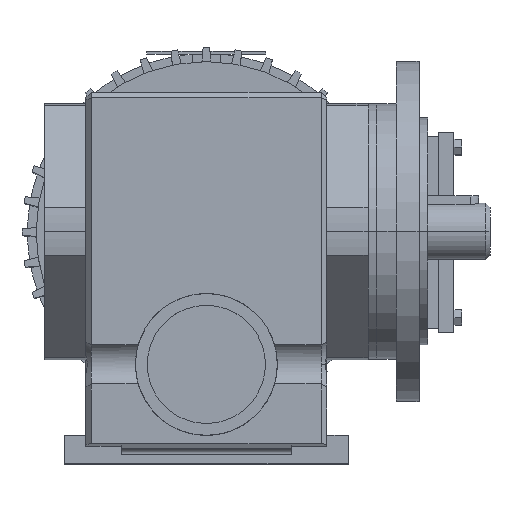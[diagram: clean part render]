
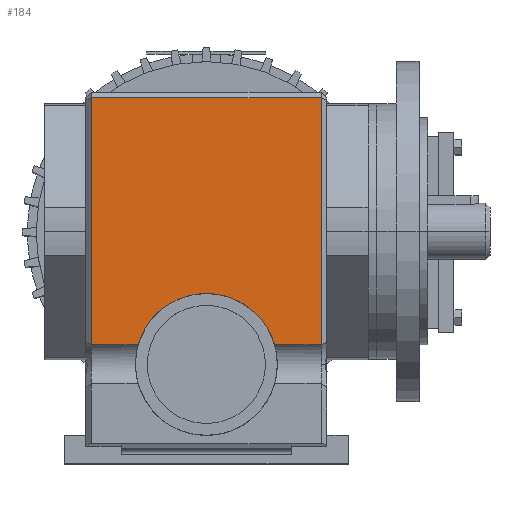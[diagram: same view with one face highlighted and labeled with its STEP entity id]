
A CAD part, top view. The second image highlights one B-rep face of the part: STEP entity #184.
In plain terms, the highlighted planar face has unit normal (0, 0, 1).
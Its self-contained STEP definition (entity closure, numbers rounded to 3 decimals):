
#45 = VERTEX_POINT('',#46);
#46 = CARTESIAN_POINT('',(40.5,-40.126,130.5));
#56 = PLANE('',#57);
#57 = AXIS2_PLACEMENT_3D('',#58,#59,#60);
#58 = CARTESIAN_POINT('',(40.5,47.,130.5));
#59 = DIRECTION('',(0.707,0.,0.707)
  );
#60 = DIRECTION('',(0.707,0.,-0.707));
#132 = VERTEX_POINT('',#133);
#133 = CARTESIAN_POINT('',(40.5,47.,130.5));
#159 = EDGE_CURVE('',#45,#132,#160,.T.);
#160 = SURFACE_CURVE('',#161,(#165,#172),.PCURVE_S1.);
#161 = LINE('',#162,#163);
#162 = CARTESIAN_POINT('',(40.5,47.,130.5));
#163 = VECTOR('',#164,1.);
#164 = DIRECTION('',(0.,1.,0.));
#165 = PCURVE('',#56,#166);
#166 = DEFINITIONAL_REPRESENTATION('',(#167),#171);
#167 = LINE('',#168,#169);
#168 = CARTESIAN_POINT('',(0.,0.));
#169 = VECTOR('',#170,1.);
#170 = DIRECTION('',(0.,1.));
#171 = ( GEOMETRIC_REPRESENTATION_CONTEXT(2) 
PARAMETRIC_REPRESENTATION_CONTEXT() REPRESENTATION_CONTEXT('2D SPACE',''
  ) );
#172 = PCURVE('',#173,#178);
#173 = PLANE('',#174);
#174 = AXIS2_PLACEMENT_3D('',#175,#176,#177);
#175 = CARTESIAN_POINT('',(50.,47.,130.5));
#176 = DIRECTION('',(0.,0.,-1.));
#177 = DIRECTION('',(0.,1.,0.));
#178 = DEFINITIONAL_REPRESENTATION('',(#179),#183);
#179 = LINE('',#180,#181);
#180 = CARTESIAN_POINT('',(0.,-9.5));
#181 = VECTOR('',#182,1.);
#182 = DIRECTION('',(1.,0.));
#183 = ( GEOMETRIC_REPRESENTATION_CONTEXT(2) 
PARAMETRIC_REPRESENTATION_CONTEXT() REPRESENTATION_CONTEXT('2D SPACE',''
  ) );
#184 = ADVANCED_FACE('',(#185),#173,.F.);
#185 = FACE_BOUND('',#186,.T.);
#186 = EDGE_LOOP('',(#187,#215,#243,#270,#302,#327));
#187 = ORIENTED_EDGE('',*,*,#188,.T.);
#188 = EDGE_CURVE('',#132,#189,#191,.T.);
#189 = VERTEX_POINT('',#190);
#190 = CARTESIAN_POINT('',(-40.5,47.,130.5));
#191 = SURFACE_CURVE('',#192,(#196,#203),.PCURVE_S1.);
#192 = LINE('',#193,#194);
#193 = CARTESIAN_POINT('',(50.,47.,130.5));
#194 = VECTOR('',#195,1.);
#195 = DIRECTION('',(-1.,0.,0.));
#196 = PCURVE('',#173,#197);
#197 = DEFINITIONAL_REPRESENTATION('',(#198),#202);
#198 = LINE('',#199,#200);
#199 = CARTESIAN_POINT('',(0.,0.));
#200 = VECTOR('',#201,1.);
#201 = DIRECTION('',(0.,-1.));
#202 = ( GEOMETRIC_REPRESENTATION_CONTEXT(2) 
PARAMETRIC_REPRESENTATION_CONTEXT() REPRESENTATION_CONTEXT('2D SPACE',''
  ) );
#203 = PCURVE('',#204,#209);
#204 = PLANE('',#205);
#205 = AXIS2_PLACEMENT_3D('',#206,#207,#208);
#206 = CARTESIAN_POINT('',(50.,49.,128.5));
#207 = DIRECTION('',(0.,-0.707,-0.707));
#208 = DIRECTION('',(0.,0.707,-0.707));
#209 = DEFINITIONAL_REPRESENTATION('',(#210),#214);
#210 = LINE('',#211,#212);
#211 = CARTESIAN_POINT('',(-2.828,0.));
#212 = VECTOR('',#213,1.);
#213 = DIRECTION('',(0.,-1.));
#214 = ( GEOMETRIC_REPRESENTATION_CONTEXT(2) 
PARAMETRIC_REPRESENTATION_CONTEXT() REPRESENTATION_CONTEXT('2D SPACE',''
  ) );
#215 = ORIENTED_EDGE('',*,*,#216,.T.);
#216 = EDGE_CURVE('',#189,#217,#219,.T.);
#217 = VERTEX_POINT('',#218);
#218 = CARTESIAN_POINT('',(-40.5,-40.126,130.5));
#219 = SURFACE_CURVE('',#220,(#224,#231),.PCURVE_S1.);
#220 = LINE('',#221,#222);
#221 = CARTESIAN_POINT('',(-40.5,-40.126,130.5));
#222 = VECTOR('',#223,1.);
#223 = DIRECTION('',(0.,-1.,0.));
#224 = PCURVE('',#173,#225);
#225 = DEFINITIONAL_REPRESENTATION('',(#226),#230);
#226 = LINE('',#227,#228);
#227 = CARTESIAN_POINT('',(-87.126,-90.5));
#228 = VECTOR('',#229,1.);
#229 = DIRECTION('',(-1.,0.));
#230 = ( GEOMETRIC_REPRESENTATION_CONTEXT(2) 
PARAMETRIC_REPRESENTATION_CONTEXT() REPRESENTATION_CONTEXT('2D SPACE',''
  ) );
#231 = PCURVE('',#232,#237);
#232 = PLANE('',#233);
#233 = AXIS2_PLACEMENT_3D('',#234,#235,#236);
#234 = CARTESIAN_POINT('',(-40.5,47.,130.5));
#235 = DIRECTION('',(-0.707,0.,0.707)
  );
#236 = DIRECTION('',(0.707,0.,0.707));
#237 = DEFINITIONAL_REPRESENTATION('',(#238),#242);
#238 = LINE('',#239,#240);
#239 = CARTESIAN_POINT('',(0.,-87.126));
#240 = VECTOR('',#241,1.);
#241 = DIRECTION('',(0.,-1.));
#242 = ( GEOMETRIC_REPRESENTATION_CONTEXT(2) 
PARAMETRIC_REPRESENTATION_CONTEXT() REPRESENTATION_CONTEXT('2D SPACE',''
  ) );
#243 = ORIENTED_EDGE('',*,*,#244,.F.);
#244 = EDGE_CURVE('',#245,#217,#247,.T.);
#245 = VERTEX_POINT('',#246);
#246 = CARTESIAN_POINT('',(-24.036,-40.126,130.5));
#247 = SURFACE_CURVE('',#248,(#252,#259),.PCURVE_S1.);
#248 = LINE('',#249,#250);
#249 = CARTESIAN_POINT('',(50.,-40.126,130.5));
#250 = VECTOR('',#251,1.);
#251 = DIRECTION('',(-1.,0.,0.));
#252 = PCURVE('',#173,#253);
#253 = DEFINITIONAL_REPRESENTATION('',(#254),#258);
#254 = LINE('',#255,#256);
#255 = CARTESIAN_POINT('',(-87.126,0.));
#256 = VECTOR('',#257,1.);
#257 = DIRECTION('',(0.,-1.));
#258 = ( GEOMETRIC_REPRESENTATION_CONTEXT(2) 
PARAMETRIC_REPRESENTATION_CONTEXT() REPRESENTATION_CONTEXT('2D SPACE',''
  ) );
#259 = PCURVE('',#260,#265);
#260 = CYLINDRICAL_SURFACE('',#261,8.5);
#261 = AXIS2_PLACEMENT_3D('',#262,#263,#264);
#262 = CARTESIAN_POINT('',(50.,-47.,135.5));
#263 = DIRECTION('',(-1.,0.,0.));
#264 = DIRECTION('',(0.,0.,1.));
#265 = DEFINITIONAL_REPRESENTATION('',(#266),#269);
#266 = B_SPLINE_CURVE_WITH_KNOTS('',1,(#267,#268),.UNSPECIFIED.,.F.,.F.,
  (2,2),(74.036,90.5),.PIECEWISE_BEZIER_KNOTS.);
#267 = CARTESIAN_POINT('',(2.2,74.036));
#268 = CARTESIAN_POINT('',(2.2,90.5));
#269 = ( GEOMETRIC_REPRESENTATION_CONTEXT(2) 
PARAMETRIC_REPRESENTATION_CONTEXT() REPRESENTATION_CONTEXT('2D SPACE',''
  ) );
#270 = ORIENTED_EDGE('',*,*,#271,.F.);
#271 = EDGE_CURVE('',#272,#245,#274,.T.);
#272 = VERTEX_POINT('',#273);
#273 = CARTESIAN_POINT('',(24.036,-40.126,130.5));
#274 = SURFACE_CURVE('',#275,(#280,#291),.PCURVE_S1.);
#275 = CIRCLE('',#276,25.);
#276 = AXIS2_PLACEMENT_3D('',#277,#278,#279);
#277 = CARTESIAN_POINT('',(0.,-47.,130.5));
#278 = DIRECTION('',(0.,0.,1.));
#279 = DIRECTION('',(0.,1.,0.));
#280 = PCURVE('',#173,#281);
#281 = DEFINITIONAL_REPRESENTATION('',(#282),#290);
#282 = ( BOUNDED_CURVE() B_SPLINE_CURVE(2,(#283,#284,#285,#286,#287,#288
,#289),.UNSPECIFIED.,.F.,.F.) B_SPLINE_CURVE_WITH_KNOTS((1,2,2,2,2,1),(
    -2.094,0.,2.094,4.189,6.283,
8.378),.UNSPECIFIED.) CURVE() GEOMETRIC_REPRESENTATION_ITEM() 
RATIONAL_B_SPLINE_CURVE((1.,0.5,1.,0.5,1.,0.5,1.)) REPRESENTATION_ITEM(
  '') );
#283 = CARTESIAN_POINT('',(-69.,-50.));
#284 = CARTESIAN_POINT('',(-69.,-93.301));
#285 = CARTESIAN_POINT('',(-106.5,-71.651));
#286 = CARTESIAN_POINT('',(-144.,-50.));
#287 = CARTESIAN_POINT('',(-106.5,-28.349));
#288 = CARTESIAN_POINT('',(-69.,-6.699));
#289 = CARTESIAN_POINT('',(-69.,-50.));
#290 = ( GEOMETRIC_REPRESENTATION_CONTEXT(2) 
PARAMETRIC_REPRESENTATION_CONTEXT() REPRESENTATION_CONTEXT('2D SPACE',''
  ) );
#291 = PCURVE('',#292,#297);
#292 = CYLINDRICAL_SURFACE('',#293,25.);
#293 = AXIS2_PLACEMENT_3D('',#294,#295,#296);
#294 = CARTESIAN_POINT('',(0.,-47.,135.5));
#295 = DIRECTION('',(0.,0.,-1.));
#296 = DIRECTION('',(-1.,0.,0.));
#297 = DEFINITIONAL_REPRESENTATION('',(#298),#301);
#298 = B_SPLINE_CURVE_WITH_KNOTS('',1,(#299,#300),.UNSPECIFIED.,.F.,.F.,
  (2,2),(4.991,7.575),.PIECEWISE_BEZIER_KNOTS.);
#299 = CARTESIAN_POINT('',(2.863,5.));
#300 = CARTESIAN_POINT('',(0.279,5.));
#301 = ( GEOMETRIC_REPRESENTATION_CONTEXT(2) 
PARAMETRIC_REPRESENTATION_CONTEXT() REPRESENTATION_CONTEXT('2D SPACE',''
  ) );
#302 = ORIENTED_EDGE('',*,*,#303,.F.);
#303 = EDGE_CURVE('',#45,#272,#304,.T.);
#304 = SURFACE_CURVE('',#305,(#309,#316),.PCURVE_S1.);
#305 = LINE('',#306,#307);
#306 = CARTESIAN_POINT('',(50.,-40.126,130.5));
#307 = VECTOR('',#308,1.);
#308 = DIRECTION('',(-1.,0.,0.));
#309 = PCURVE('',#173,#310);
#310 = DEFINITIONAL_REPRESENTATION('',(#311),#315);
#311 = LINE('',#312,#313);
#312 = CARTESIAN_POINT('',(-87.126,0.));
#313 = VECTOR('',#314,1.);
#314 = DIRECTION('',(0.,-1.));
#315 = ( GEOMETRIC_REPRESENTATION_CONTEXT(2) 
PARAMETRIC_REPRESENTATION_CONTEXT() REPRESENTATION_CONTEXT('2D SPACE',''
  ) );
#316 = PCURVE('',#317,#322);
#317 = CYLINDRICAL_SURFACE('',#318,8.5);
#318 = AXIS2_PLACEMENT_3D('',#319,#320,#321);
#319 = CARTESIAN_POINT('',(50.,-47.,135.5));
#320 = DIRECTION('',(-1.,0.,0.));
#321 = DIRECTION('',(0.,0.,1.));
#322 = DEFINITIONAL_REPRESENTATION('',(#323),#326);
#323 = B_SPLINE_CURVE_WITH_KNOTS('',1,(#324,#325),.UNSPECIFIED.,.F.,.F.,
  (2,2),(9.5,25.964),.PIECEWISE_BEZIER_KNOTS.);
#324 = CARTESIAN_POINT('',(2.2,9.5));
#325 = CARTESIAN_POINT('',(2.2,25.964));
#326 = ( GEOMETRIC_REPRESENTATION_CONTEXT(2) 
PARAMETRIC_REPRESENTATION_CONTEXT() REPRESENTATION_CONTEXT('2D SPACE',''
  ) );
#327 = ORIENTED_EDGE('',*,*,#159,.T.);
